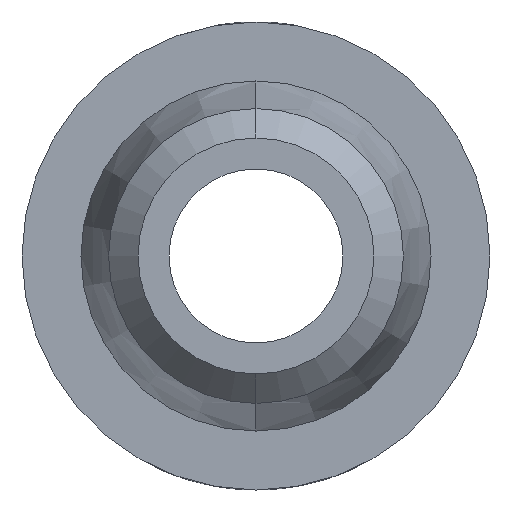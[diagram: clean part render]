
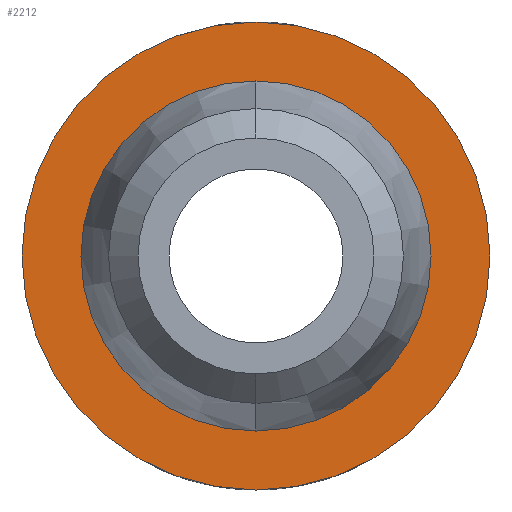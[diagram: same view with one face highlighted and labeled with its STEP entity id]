
A CAD part, left-side view. The second image highlights one B-rep face of the part: STEP entity #2212.
In plain terms, the highlighted planar face has unit normal (1, 0, 0).
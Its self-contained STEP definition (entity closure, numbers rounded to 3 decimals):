
#43=PLANE('',#2523);
#62=FACE_BOUND('',#293,.T.);
#128=CIRCLE('',#2524,3.175);
#129=CIRCLE('',#2525,2.375);
#205=FACE_OUTER_BOUND('',#292,.T.);
#292=EDGE_LOOP('',(#1809));
#293=EDGE_LOOP('',(#1810));
#999=VERTEX_POINT('',#4145);
#1000=VERTEX_POINT('',#4147);
#1404=EDGE_CURVE('',#999,#999,#128,.T.);
#1405=EDGE_CURVE('',#1000,#1000,#129,.T.);
#1809=ORIENTED_EDGE('',*,*,#1404,.T.);
#1810=ORIENTED_EDGE('',*,*,#1405,.T.);
#2212=ADVANCED_FACE('',(#205,#62),#43,.T.);
#2523=AXIS2_PLACEMENT_3D('',#4144,#2789,#2790);
#2524=AXIS2_PLACEMENT_3D('',#4146,#2791,#2792);
#2525=AXIS2_PLACEMENT_3D('',#4148,#2793,#2794);
#2789=DIRECTION('center_axis',(1.,0.,0.));
#2790=DIRECTION('ref_axis',(0.,0.,-1.));
#2791=DIRECTION('center_axis',(1.,0.,0.));
#2792=DIRECTION('ref_axis',(0.,0.,-1.));
#2793=DIRECTION('center_axis',(-1.,0.,0.));
#2794=DIRECTION('ref_axis',(0.,0.,
-1.));
#4144=CARTESIAN_POINT('Origin',(-4.5,-3.213,0.));
#4145=CARTESIAN_POINT('',(-4.5,0.,3.175));
#4146=CARTESIAN_POINT('Origin',(-4.5,0.,0.));
#4147=CARTESIAN_POINT('',(-4.5,0.,2.375));
#4148=CARTESIAN_POINT('Origin',(-4.5,0.,0.));
